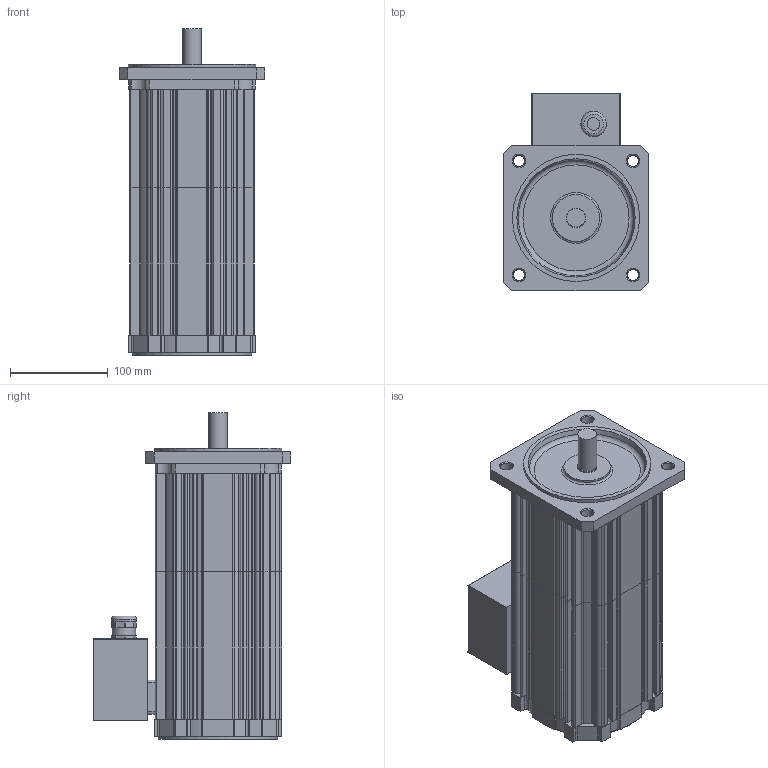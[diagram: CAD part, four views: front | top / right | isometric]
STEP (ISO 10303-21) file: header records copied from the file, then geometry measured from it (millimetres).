
FILE_DESCRIPTION(/* description */ (''),/* implementation_level */ '2;1');
FILE_NAME(/* name */ 'KSA6416',/* time_stamp */ '2009-02-26T14:43:34+01:00',/* author */ (''),/* organization */ (''),/* preprocessor_version */ 'ST-DEVELOPER v8',/* originating_system */ 'UNIGRAPHICS SOLUTIONS - UNIGRAPHICS 18.0',/* authorisation */ '');
FILE_SCHEMA (('AUTOMOTIVE_DESIGN { 1 2 10303 214 0 1 1 1 }'));
Length unit declared in the file: millimetre
Products named in the file (6): 0280391350_0; 089106X_0; LagerschBS_0; LagerschAS_0; Klemmenkasten_0; KSA6616_0
Assembly tree (5 placements, depth 3):
  KSA6616_0
    LagerschAS_0
    Klemmenkasten_0
      0280391350_0
    LagerschBS_0
    089106X_0
Bounding box: 149 x 202.35 x 334 mm (x, y, z)
Volume: 2208828.5 mm3; surface area: 553695.7 mm2
Topology: 6 solids, 6 shells, 615 faces, 1738 edges, 1145 vertices
Faces by surface type: cylinder 331, plane 266, cone 10, torus 4, sphere 4
Full cylindrical faces by diameter (mm): 13 x1, 18 x1, 19 x1, 20 x2, 24 x1, 26 x1, 48 x1, 114 x1, 119.7 x2, 121 x1, 122 x2, 130 x1
Entity records: 20117 total; most frequent: DIRECTION 3636, CARTESIAN_POINT 3459, ORIENTED_EDGE 3398, EDGE_CURVE 1699, AXIS2_PLACEMENT_3D 1316, VERTEX_POINT 1139, LINE 1004, VECTOR 1004
